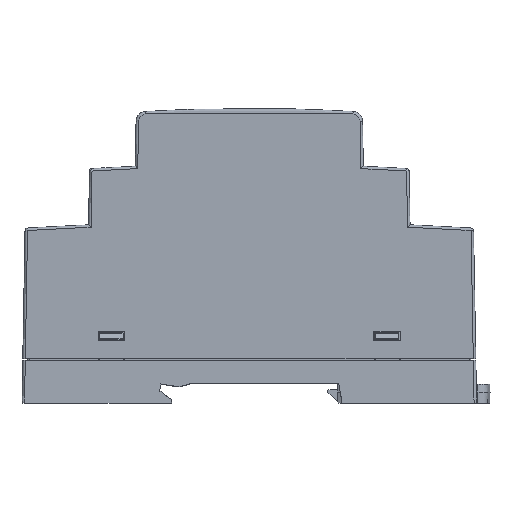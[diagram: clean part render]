
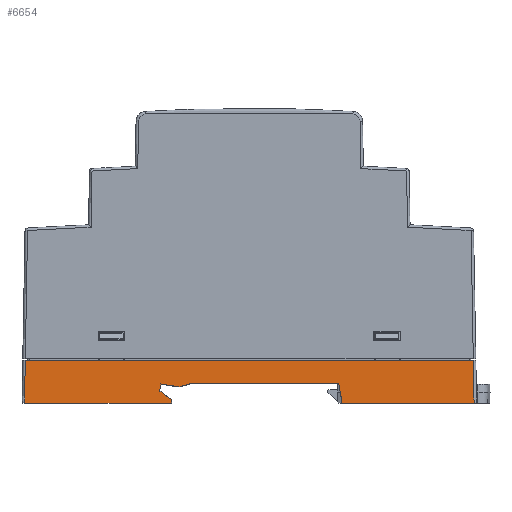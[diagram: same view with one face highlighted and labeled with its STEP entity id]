
A CAD part, left-side view. The second image highlights one B-rep face of the part: STEP entity #6654.
In plain terms, the highlighted planar face has unit normal (-1, 0, 0.009).
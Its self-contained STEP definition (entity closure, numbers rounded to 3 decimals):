
#6654=ADVANCED_FACE('',(#8100),#34930,.T.);
#8100=FACE_OUTER_BOUND('',#9576,.T.);
#9576=EDGE_LOOP('',(#11395,#11396,#11397,#11398,#11399,#11400,#11401,#11402,
#11403,#11404,#11405,#11406,#11407,#11408));
#11395=ORIENTED_EDGE('',*,*,#19103,.T.);
#11396=ORIENTED_EDGE('',*,*,#19104,.T.);
#11397=ORIENTED_EDGE('',*,*,#19105,.T.);
#11398=ORIENTED_EDGE('',*,*,#19106,.T.);
#11399=ORIENTED_EDGE('',*,*,#19107,.T.);
#11400=ORIENTED_EDGE('',*,*,#19108,.T.);
#11401=ORIENTED_EDGE('',*,*,#19109,.T.);
#11402=ORIENTED_EDGE('',*,*,#19110,.T.);
#11403=ORIENTED_EDGE('',*,*,#19111,.T.);
#11404=ORIENTED_EDGE('',*,*,#19112,.T.);
#11405=ORIENTED_EDGE('',*,*,#19113,.T.);
#11406=ORIENTED_EDGE('',*,*,#19135,.T.);
#11407=ORIENTED_EDGE('',*,*,#19114,.T.);
#11408=ORIENTED_EDGE('',*,*,#19133,.T.);
#19103=EDGE_CURVE('',#29943,#29944,#25249,.T.);
#19104=EDGE_CURVE('',#29944,#29945,#25250,.T.);
#19105=EDGE_CURVE('',#29945,#29946,#25251,.T.);
#19106=EDGE_CURVE('',#29946,#29947,#25252,.T.);
#19107=EDGE_CURVE('',#29947,#29948,#25253,.T.);
#19108=EDGE_CURVE('',#29948,#29949,#25254,.T.);
#19109=EDGE_CURVE('',#29949,#29950,#25255,.T.);
#19110=EDGE_CURVE('',#29950,#29951,#25256,.T.);
#19111=EDGE_CURVE('',#29951,#29952,#25257,.T.);
#19112=EDGE_CURVE('',#29952,#29953,#25258,.T.);
#19113=EDGE_CURVE('',#29953,#29954,#25259,.T.);
#19114=EDGE_CURVE('',#29955,#29956,#25260,.T.);
#19133=EDGE_CURVE('',#29956,#29943,#25279,.T.);
#19135=EDGE_CURVE('',#29954,#29955,#25281,.T.);
#25249=B_SPLINE_CURVE_WITH_KNOTS('',1,(#39063,#39064),.UNSPECIFIED.,.F.,
 .F.,(2,2),(0.,29.069),.UNSPECIFIED.);
#25250=B_SPLINE_CURVE_WITH_KNOTS('',1,(#39065,#39066),.UNSPECIFIED.,.F.,
 .F.,(2,2),(0.,0.297),.UNSPECIFIED.);
#25251=B_SPLINE_CURVE_WITH_KNOTS('',1,(#39067,#39068),.UNSPECIFIED.,.F.,
 .F.,(2,2),(0.,0.392),.UNSPECIFIED.);
#25252=B_SPLINE_CURVE_WITH_KNOTS('',1,(#39069,#39070),.UNSPECIFIED.,.F.,
 .F.,(2,2),(0.,2.52),.UNSPECIFIED.);
#25253=B_SPLINE_CURVE_WITH_KNOTS('',1,(#39071,#39072),.UNSPECIFIED.,.F.,
 .F.,(2,2),(0.,0.329),.UNSPECIFIED.);
#25254=B_SPLINE_CURVE_WITH_KNOTS('',1,(#39073,#39074),.UNSPECIFIED.,.F.,
 .F.,(2,2),(0.,1.538),.UNSPECIFIED.);
#25255=B_SPLINE_CURVE_WITH_KNOTS('',1,(#39075,#39076),.UNSPECIFIED.,.F.,
 .F.,(2,2),(0.,3.647),.UNSPECIFIED.);
#25256=B_SPLINE_CURVE_WITH_KNOTS('',1,(#39077,#39078),.UNSPECIFIED.,.F.,
 .F.,(2,2),(0.,2.573),.UNSPECIFIED.);
#25257=B_SPLINE_CURVE_WITH_KNOTS('',1,(#39079,#39080),.UNSPECIFIED.,.F.,
 .F.,(2,2),(0.,29.135),.UNSPECIFIED.);
#25258=B_SPLINE_CURVE_WITH_KNOTS('',1,(#39081,#39082),.UNSPECIFIED.,.F.,
 .F.,(2,2),(0.,3.96),.UNSPECIFIED.);
#25259=B_SPLINE_CURVE_WITH_KNOTS('',1,(#39083,#39084),.UNSPECIFIED.,.F.,
 .F.,(2,2),(0.,26.112),.UNSPECIFIED.);
#25260=B_SPLINE_CURVE_WITH_KNOTS('',1,(#39085,#39086),.UNSPECIFIED.,.F.,
 .F.,(2,2),(0.,88.703),.UNSPECIFIED.);
#25279=B_SPLINE_CURVE_WITH_KNOTS('',1,(#39123,#39124),.UNSPECIFIED.,.F.,
 .F.,(2,2),(-8.502,0.),.UNSPECIFIED.);
#25281=B_SPLINE_CURVE_WITH_KNOTS('',1,(#39127,#39128),.UNSPECIFIED.,.F.,
 .F.,(2,2),(-8.502,0.),.UNSPECIFIED.);
#29943=VERTEX_POINT('',#38725);
#29944=VERTEX_POINT('',#38726);
#29945=VERTEX_POINT('',#38727);
#29946=VERTEX_POINT('',#38728);
#29947=VERTEX_POINT('',#38729);
#29948=VERTEX_POINT('',#38730);
#29949=VERTEX_POINT('',#38731);
#29950=VERTEX_POINT('',#38732);
#29951=VERTEX_POINT('',#38733);
#29952=VERTEX_POINT('',#38734);
#29953=VERTEX_POINT('',#38735);
#29954=VERTEX_POINT('',#38736);
#29955=VERTEX_POINT('',#38737);
#29956=VERTEX_POINT('',#38738);
#34930=PLANE('',#35793);
#35793=AXIS2_PLACEMENT_3D('',#38243,#36606,$);
#36606=DIRECTION('',(-1.,0.,0.009));
#38243=CARTESIAN_POINT('',(178.805,-43.216,9.263));
#38725=CARTESIAN_POINT('',(178.722,-52.236,-0.209));
#38726=CARTESIAN_POINT('',(178.722,-81.306,-0.209));
#38727=CARTESIAN_POINT('',(178.724,-81.306,0.089));
#38728=CARTESIAN_POINT('',(178.728,-81.238,0.475));
#38729=CARTESIAN_POINT('',(178.742,-79.279,2.061));
#38730=CARTESIAN_POINT('',(178.742,-78.95,2.061));
#38731=CARTESIAN_POINT('',(178.755,-79.211,3.576));
#38732=CARTESIAN_POINT('',(178.75,-82.816,3.023));
#38733=CARTESIAN_POINT('',(178.756,-85.301,3.691));
#38734=CARTESIAN_POINT('',(178.756,-114.436,3.691));
#38735=CARTESIAN_POINT('',(178.722,-115.124,-0.209));
#38736=CARTESIAN_POINT('',(178.722,-141.236,-0.209));
#38737=CARTESIAN_POINT('',(178.796,-141.088,8.291));
#38738=CARTESIAN_POINT('',(178.796,-52.384,8.291));
#39063=CARTESIAN_POINT('',(178.722,-52.236,-0.209));
#39064=CARTESIAN_POINT('',(178.722,-81.306,-0.209));
#39065=CARTESIAN_POINT('',(178.722,-81.306,-0.209));
#39066=CARTESIAN_POINT('',(178.724,-81.306,0.089));
#39067=CARTESIAN_POINT('',(178.724,-81.306,0.089));
#39068=CARTESIAN_POINT('',(178.728,-81.238,0.475));
#39069=CARTESIAN_POINT('',(178.728,-81.238,0.475));
#39070=CARTESIAN_POINT('',(178.742,-79.279,2.061));
#39071=CARTESIAN_POINT('',(178.742,-79.279,2.061));
#39072=CARTESIAN_POINT('',(178.742,-78.95,2.061));
#39073=CARTESIAN_POINT('',(178.742,-78.95,2.061));
#39074=CARTESIAN_POINT('',(178.755,-79.211,3.576));
#39075=CARTESIAN_POINT('',(178.755,-79.211,3.576));
#39076=CARTESIAN_POINT('',(178.75,-82.816,3.023));
#39077=CARTESIAN_POINT('',(178.75,-82.816,3.023));
#39078=CARTESIAN_POINT('',(178.756,-85.301,3.691));
#39079=CARTESIAN_POINT('',(178.756,-85.301,3.691));
#39080=CARTESIAN_POINT('',(178.756,-114.436,3.691));
#39081=CARTESIAN_POINT('',(178.756,-114.436,3.691));
#39082=CARTESIAN_POINT('',(178.722,-115.124,-0.209));
#39083=CARTESIAN_POINT('',(178.722,-115.124,-0.209));
#39084=CARTESIAN_POINT('',(178.722,-141.236,-0.209));
#39085=CARTESIAN_POINT('',(178.796,-141.088,8.291));
#39086=CARTESIAN_POINT('',(178.796,-52.384,8.291));
#39123=CARTESIAN_POINT('',(178.796,-52.384,8.291));
#39124=CARTESIAN_POINT('',(178.722,-52.236,-0.209));
#39127=CARTESIAN_POINT('',(178.722,-141.236,-0.209));
#39128=CARTESIAN_POINT('',(178.796,-141.088,8.291));
